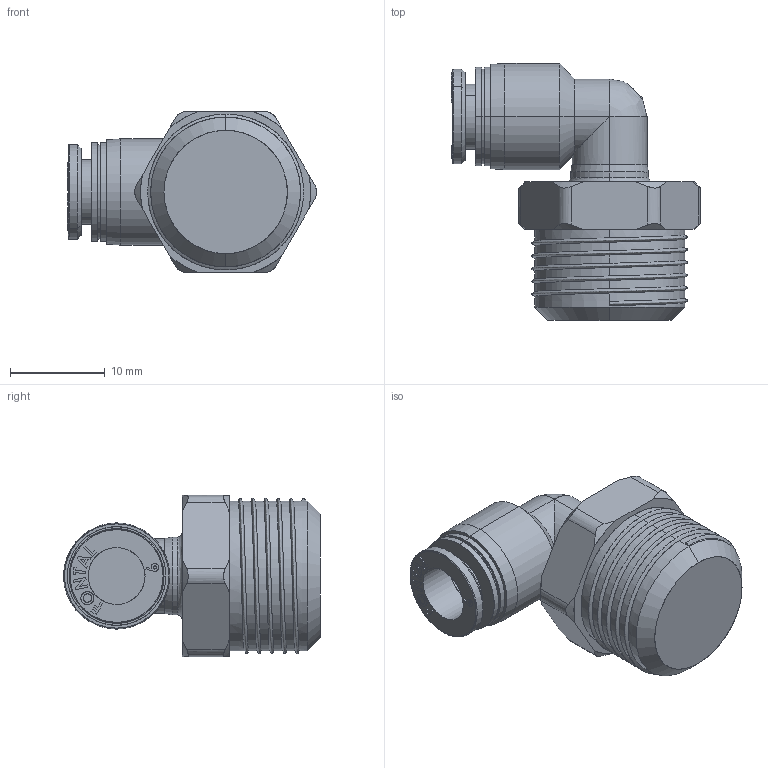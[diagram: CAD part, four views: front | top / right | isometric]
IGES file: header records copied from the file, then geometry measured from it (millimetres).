
Start section: SolidWorks IGES file using analytic representation for surfaces
Global section: file name: D:\Custom\3D繪製\ADDITIONAL\FPL\FPL6-03.IGS,1; native system: 5HSolidWorks 2014; preprocessor: SolidWorks 2014; author: Chieh_Lu; date: 160115.050450; units: millimetre
Bounding box: 26.26 x 27.1 x 17 mm (x, y, z)
Surface area: 2564.8 mm2 (no closed solid volume)
Topology: 0 solids, 0 shells, 169 faces, 2044 edges, 2044 vertices
Faces by surface type: bspline 104, revolution 65
